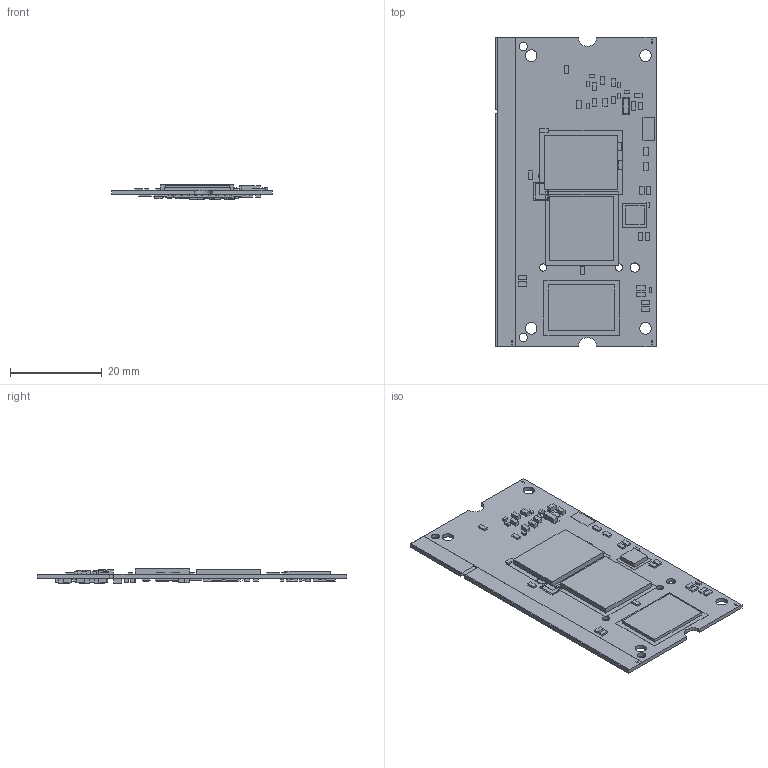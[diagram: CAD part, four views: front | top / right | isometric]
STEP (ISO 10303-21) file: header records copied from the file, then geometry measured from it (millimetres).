
FILE_DESCRIPTION(('STEP AP214'),'1');
FILE_NAME('sk_imx8mini_sodimm.step','2020-05-06T08:50:47',(' '),(' '),'Spatial InterOp 3D','XD3DPlugin XRACreate',' ');
FILE_SCHEMA(('automotive_design'));
Length unit declared in the file: millimetre
Products named in the file (144): DesignRootModel; uid__9208676; Submodel-noModelForPart_CAP_0402_872604882; placementOutline; Submodel-CAP_0402_872604882_part_CAPC1005X56N; Submodel-noModelForPart_RES_0603_430956388; Submodel-RES_0603_430956388_part_RESC1608X38N; Submodel-noModelForPart_CAP_0402_2051605626; Submodel-CAP_0402_2051605626_part_CAPC1005X56N; Submodel-noModelForPart_CAP_0603_1693687214; Submodel-CAP_0603_1693687214_part_CAPC1608X92N; Submodel-noModelForPart_RES_0603_4096161011; Submodel-RES_0603_4096161011_part_RESC1608X38N; Submodel-noModelForPart_RES_0603_3330196753; Submodel-RES_0603_3330196753_part_RESC1608X38N; Submodel-noModelForPart_CAP_0603_1818655867; Submodel-CAP_0603_1818655867_part_CAPC1608X92N; Submodel-noModelForPart_CKP2016_4039307111; Submodel-CKP2016_4039307111_part_INDC2016X100N; Submodel-noModelForPart_CAP_0402_2271991565; Submodel-CAP_0402_2271991565_part_CAPC1005X56N; Submodel-noModelForPart_CAP_0201_2833275588; Submodel-CAP_0201_2833275588_part_CAPC0603X33N; Submodel-noModelForPart_CKP2016_1881806883; Submodel-CKP2016_1881806883_part_INDC2016X100N; Submodel-noModelForPart_CAP_0201_2426253158; Submodel-CAP_0201_2426253158_part_CAPC0603X33N; Submodel-noModelForPart_CAP_0603_1043902411; Submodel-CAP_0603_1043902411_part_CAPC1608X92N; Submodel-noModelForPart_CAP_0201_850206894; Submodel-CAP_0201_850206894_part_CAPC0603X33N; Submodel-noModelForPart_RES_0603_3125043268; Submodel-RES_0603_3125043268_part_RESC1608X38N; Submodel-noModelForPart_CAP_0402_1541938758; Submodel-CAP_0402_1541938758_part_CAPC1005X56N; Submodel-noModelForPart_CAP_0603_1178559726; Submodel-CAP_0603_1178559726_part_CAPC1608X92N; Submodel-noModelForPart_CAP_0402_1129422897; Submodel-CAP_0402_1129422897_part_CAPC1005X56N; Submodel-noModelForPart_REF_3117430835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
Assembly tree (281 placements, depth 5):
  ProductRootModel
    DesignRootModel
      uid__9208676
      Submodel-CAP_0402_872604882_part_CAPC1005X56N  x4
        Submodel-noModelForPart_CAP_0402_872604882
          placementOutline
      Submodel-RES_0603_430956388_part_RESC1608X38N  x2
        Submodel-noModelForPart_RES_0603_430956388
          placementOutline
      Submodel-CAP_0402_2051605626_part_CAPC1005X56N  x2
        Submodel-noModelForPart_CAP_0402_2051605626
          placementOutline
      Submodel-CAP_0603_1693687214_part_CAPC1608X92N
        Submodel-noModelForPart_CAP_0603_1693687214
          placementOutline
      Submodel-RES_0603_4096161011_part_RESC1608X38N  x8
        Submodel-noModelForPart_RES_0603_4096161011
          placementOutline
      Submodel-RES_0603_3330196753_part_RESC1608X38N  x6
        Submodel-noModelForPart_RES_0603_3330196753
          placementOutline
      Submodel-CAP_0603_1818655867_part_CAPC1608X92N  x4
        Submodel-noModelForPart_CAP_0603_1818655867
          placementOutline
      Submodel-CKP2016_4039307111_part_INDC2016X100N
        Submodel-noModelForPart_CKP2016_4039307111
          placementOutline
          placementOutline
      Submodel-CAP_0402_2271991565_part_CAPC1005X56N
        Submodel-noModelForPart_CAP_0402_2271991565
          placementOutline
      Submodel-CAP_0201_2833275588_part_CAPC0603X33N  x2
        Submodel-noModelForPart_CAP_0201_2833275588
          placementOutline
          placementOutline
      Submodel-CKP2016_1881806883_part_INDC2016X100N
        Submodel-noModelForPart_CKP2016_1881806883
          placementOutline
          placementOutline
      Submodel-CAP_0201_2426253158_part_CAPC0603X33N  x2
        Submodel-noModelForPart_CAP_0201_2426253158
          placementOutline
          placementOutline
      Submodel-CAP_0603_1043902411_part_CAPC1608X92N  x3
        Submodel-noModelForPart_CAP_0603_1043902411
          placementOutline
      Submodel-CAP_0201_850206894_part_CAPC0603X33N  x4
        Submodel-noModelForPart_CAP_0201_850206894
          placementOutline
          placementOutline
      Submodel-RES_0603_3125043268_part_RESC1608X38N  x5
        Submodel-noModelForPart_RES_0603_3125043268
          placementOutline
      Submodel-CAP_0402_1541938758_part_CAPC1005X56N  x29
        Submodel-noModelForPart_CAP_0402_1541938758
          placementOutline
      Submodel-CAP_0603_1178559726_part_CAPC1608X92N  x3
        Submodel-noModelForPart_CAP_0603_1178559726
          placementOutline
      Submodel-CAP_0402_1129422897_part_CAPC1005X56N  x9
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Bounding box: 35 x 67.6 x 3.13 mm (x, y, z)
Volume: 2752.7 mm3; surface area: 9497.1 mm2
Topology: 204 solids, 204 shells, 1242 faces, 2502 edges, 1668 vertices
Faces by surface type: plane 1229, cylinder 13
Full cylindrical faces by diameter (mm): 1.6 x2, 1.8 x2, 2 x2, 2.5 x4
Entity records: 17631 total; most frequent: DIRECTION 2232, CARTESIAN_POINT 1973, ORIENTED_EDGE 1480, AXIS2_PLACEMENT_3D 759, EDGE_CURVE 740, LINE 714, VECTOR 714, VERTEX_POINT 500
